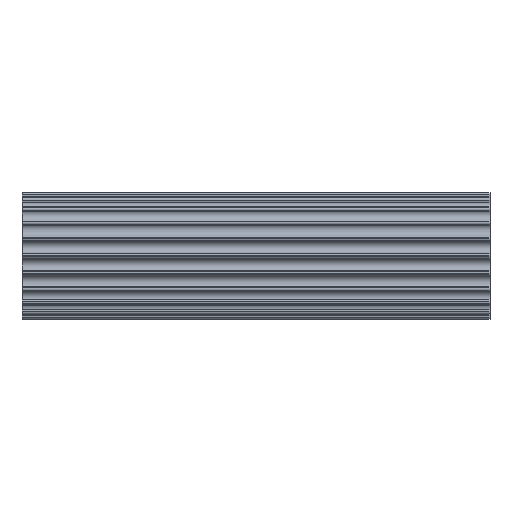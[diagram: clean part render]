
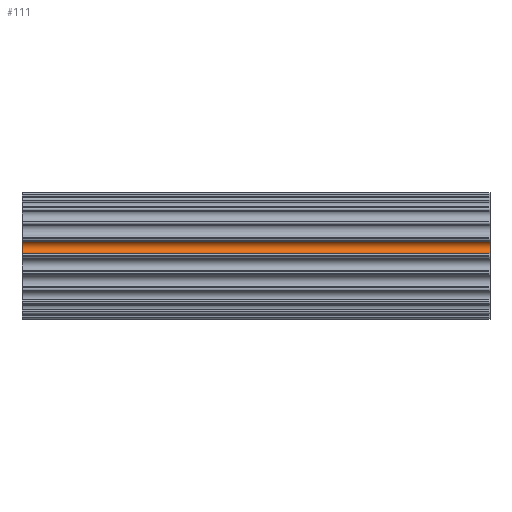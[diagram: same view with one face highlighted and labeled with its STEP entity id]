
A CAD part, top view. The second image highlights one B-rep face of the part: STEP entity #111.
In plain terms, the highlighted cylindrical face has radius 2.675 mm (diameter 5.35 mm), a partial arc.
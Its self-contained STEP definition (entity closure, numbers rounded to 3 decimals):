
#111 = ADVANCED_FACE( '', ( #282 ), #283, .F. );
#282 = FACE_OUTER_BOUND( '', #550, .T. );
#283 = CYLINDRICAL_SURFACE( '', #551, 2.675 );
#550 = EDGE_LOOP( '', ( #1254, #1255, #1256, #1257 ) );
#551 = AXIS2_PLACEMENT_3D( '', #1258, #1259, #1260 );
#1254 = ORIENTED_EDGE( '', *, *, #2111, .T. );
#1255 = ORIENTED_EDGE( '', *, *, #2242, .F. );
#1256 = ORIENTED_EDGE( '', *, *, #2050, .F. );
#1257 = ORIENTED_EDGE( '', *, *, #2241, .T. );
#1258 = CARTESIAN_POINT( '', ( 0., 3.801, 26.433 ) );
#1259 = DIRECTION( '', ( -1., 0., 0. ) );
#1260 = DIRECTION( '', ( 0., 0.99, -0.142 ) );
#2050 = EDGE_CURVE( '', #2552, #2554, #2555, .T. );
#2111 = EDGE_CURVE( '', #2669, #2667, #2670, .T. );
#2241 = EDGE_CURVE( '', #2552, #2669, #2901, .T. );
#2242 = EDGE_CURVE( '', #2554, #2667, #2902, .T. );
#2552 = VERTEX_POINT( '', #3251 );
#2554 = VERTEX_POINT( '', #3254 );
#2555 = CIRCLE( '', #3255, 2.675 );
#2667 = VERTEX_POINT( '', #3391 );
#2669 = VERTEX_POINT( '', #3394 );
#2670 = CIRCLE( '', #3395, 2.675 );
#2901 = LINE( '', #3686, #3687 );
#2902 = LINE( '', #3688, #3689 );
#3251 = CARTESIAN_POINT( '', ( 0., 1.186, 25.868 ) );
#3254 = CARTESIAN_POINT( '', ( 0., 6.15, 25.154 ) );
#3255 = AXIS2_PLACEMENT_3D( '', #4126, #4127, #4128 );
#3391 = CARTESIAN_POINT( '', ( 200., 6.15, 25.154 ) );
#3394 = CARTESIAN_POINT( '', ( 200., 1.186, 25.868 ) );
#3395 = AXIS2_PLACEMENT_3D( '', #4259, #4260, #4261 );
#3686 = CARTESIAN_POINT( '', ( 0., 1.186, 25.868 ) );
#3687 = VECTOR( '', #4529, 1000. );
#3688 = CARTESIAN_POINT( '', ( 0., 6.15, 25.154 ) );
#3689 = VECTOR( '', #4530, 1000. );
#4126 = CARTESIAN_POINT( '', ( 0., 3.801, 26.433 ) );
#4127 = DIRECTION( '', ( 1., 0., 0. ) );
#4128 = DIRECTION( '', ( 0., 0.99, -0.142 ) );
#4259 = CARTESIAN_POINT( '', ( 200., 3.801, 26.433 ) );
#4260 = DIRECTION( '', ( 1., 0., 0. ) );
#4261 = DIRECTION( '', ( 0., 0.99, -0.142 ) );
#4529 = DIRECTION( '', ( 1., 0., 0. ) );
#4530 = DIRECTION( '', ( 1., 0., 0. ) );
